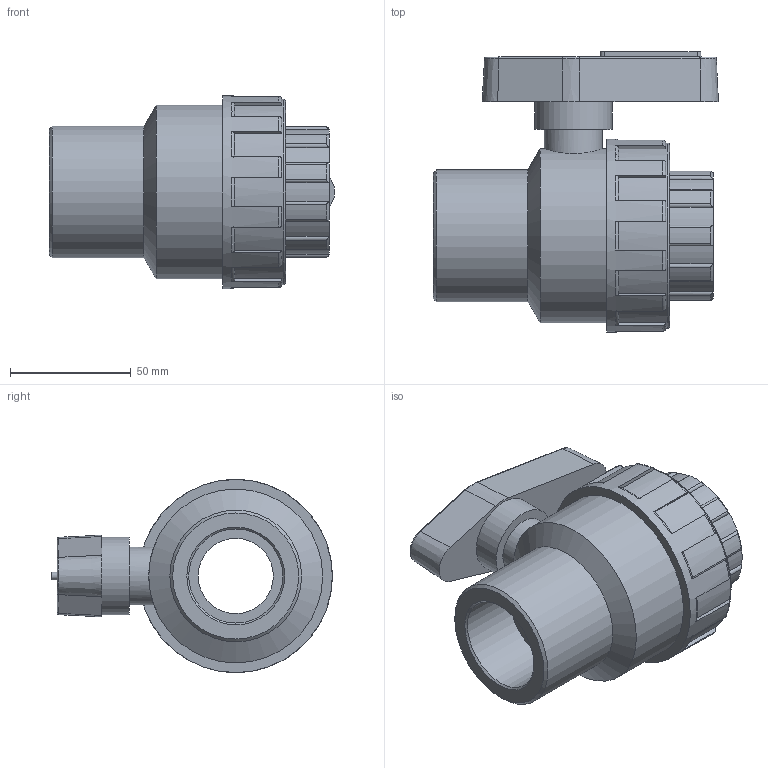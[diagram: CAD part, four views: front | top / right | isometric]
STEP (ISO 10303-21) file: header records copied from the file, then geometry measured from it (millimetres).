
FILE_DESCRIPTION(/* description */ ('PLASSON 1/NUT VALVE FEMALE THREADED 1 1/4" PVC'),/* implementation_level */ '2;1');
FILE_NAME(/* name */ 'C:\Dropbox\KIMPROJECTS-Inventor\99-16-3568-Processing\PVC Catalog 2017\113510\11351013.ipt.stp',/* time_stamp */ '2017-12-07T16:12:06+02:00',/* author */ ('KIM'),/* organization */ (''),/* preprocessor_version */ 'ST-DEVELOPER v15.6',/* originating_system */ 'Autodesk Inventor 2015',/* authorisation */ '');
FILE_SCHEMA (('AUTOMOTIVE_DESIGN { 1 0 10303 214 3 1 1 }'));
Length unit declared in the file: millimetre
Products named in the file (1): 11351013
Bounding box: 118.14 x 116.22 x 80 mm (x, y, z)
Volume: 330216.1 mm3; surface area: 54047.1 mm2
Topology: 1 solids, 1 shells, 166 faces, 439 edges, 282 vertices
Faces by surface type: plane 64, cylinder 55, torus 29, cone 18
Full cylindrical faces by diameter (mm): 24 x1, 31.162 x1, 32 x1, 38.952 x2, 54.533 x1, 72 x1, 76.8 x1, 80 x1
Entity records: 5618 total; most frequent: CARTESIAN_POINT 1546, DIRECTION 868, ORIENTED_EDGE 836, EDGE_CURVE 418, AXIS2_PLACEMENT_3D 352, VERTEX_POINT 276, EDGE_LOOP 190, CIRCLE 185
